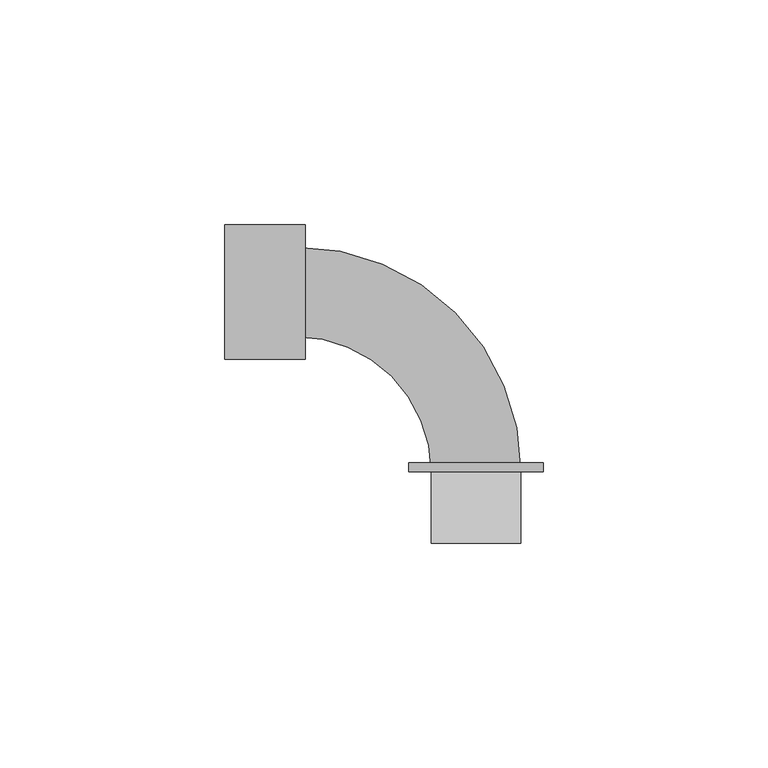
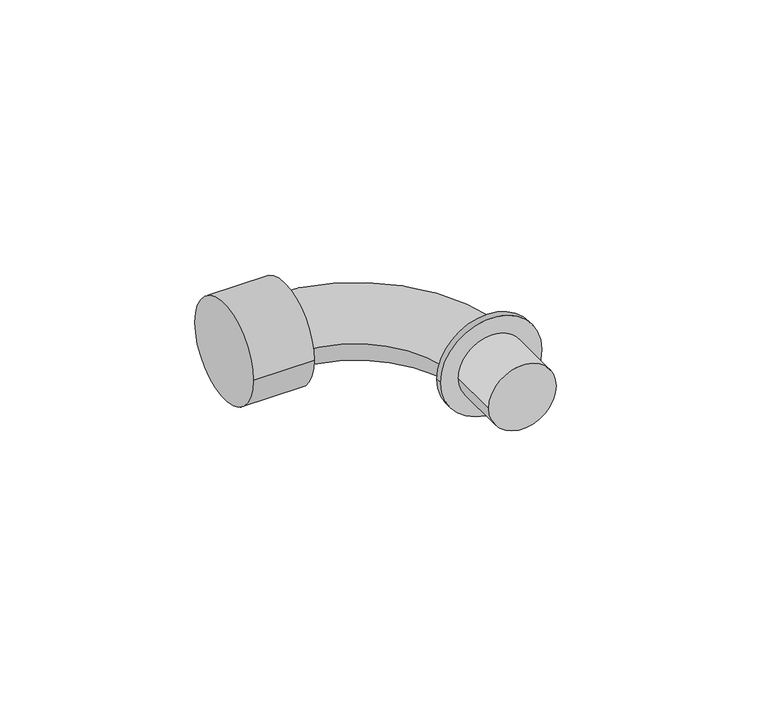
"""IFC4 building model written with IfcOpenShell, lengths in millimetres: pipe fitting geometry, 01051160 : Curva a 90º M/F."""

from ifc_helpers import new_model, si_unit, point, frame, origin, origin_2d, place, context, project, spatial, circle_curve, ellipse_curve, trimmed, segment, composite_curve, outline, extrude, source, transform, mapped, element, save
from ifc_brep_helpers import plane_surface, revolved_surface, advanced_brep


def pipe_fitting_c85212c9(model_context):
    return source(origin(), model_context, "Body", "SolidModel", [
        extrude(outline(composite_curve([segment(trimmed(circle_curve(origin_2d(), 15.0), [point((0.0, -15.0))], [point((0.0, 15.0))], False, "CARTESIAN"), True, "CONTINUOUS"), segment(trimmed(circle_curve(origin_2d(), 15.0), [point((0.0, 15.0))], [point((0.0, -15.0))], False, "CARTESIAN"), True, "CONTINUOUS")], self_intersect=False)), frame((0.0, -40.0, 0.0), z_axis=(0.0, 1.0, 0.0), x_axis=(0.0, 0.0, 1.0)), (0.0, 0.0, 1.0), 2.0),
        extrude(outline(composite_curve([segment(trimmed(circle_curve(origin_2d(), 15.0), [point((15.0, 0.0))], [point((-15.0, 0.0))], False, "CARTESIAN"), True, "CONTINUOUS"), segment(trimmed(circle_curve(origin_2d(), 15.0), [point((-15.0, 0.0))], [point((15.0, 0.0))], False, "CARTESIAN"), True, "CONTINUOUS")], self_intersect=False)), frame((-56.0, 0.0, 0.0), z_axis=(1.0, 0.0, 0.0), x_axis=(0.0, 1.0, 0.0)), (0.0, 0.0, 1.0), 18.0),
        extrude(outline(composite_curve([segment(trimmed(circle_curve(origin_2d(), 10.0), [point((0.0, -10.0))], [point((0.0, 10.0))], False, "CARTESIAN"), True, "CONTINUOUS"), segment(trimmed(circle_curve(origin_2d(), 10.0), [point((0.0, 10.0))], [point((0.0, -10.0))], False, "CARTESIAN"), True, "CONTINUOUS")], self_intersect=False)), frame((0.0, -56.0, 0.0), z_axis=(0.0, 1.0, 0.0), x_axis=(0.0, 0.0, 1.0)), (0.0, 0.0, 1.0), 16.0),
        advanced_brep(
        [(-10.0, -40.0, 0.0), (10.0, -40.0, 0.0), (-40.0, -10.0, 0.0), (-40.0, 10.0, 0.0)],
        [
            (0, 1, circle_curve(frame((0.0, -40.0, 0.0), z_axis=(0.0, -1.0, 0.0), x_axis=(1.0, 0.0, 0.0)), 10.0)),
            (1, 0, circle_curve(frame((0.0, -40.0, 0.0), z_axis=(0.0, -1.0, 0.0), x_axis=(1.0, 0.0, 0.0)), 10.0)),
            (2, 3, circle_curve(frame((-40.0, 0.0, 0.0), z_axis=(-1.0, 0.0, 0.0), x_axis=(0.0, 1.0, 0.0)), 10.0)),
            (3, 2, circle_curve(frame((-40.0, 0.0, 0.0), z_axis=(-1.0, 0.0, 0.0), x_axis=(0.0, 1.0, 0.0)), 10.0)),
            (2, 0, circle_curve(frame((-40.0, -40.0, 0.0), z_axis=(0.0, 0.0, -1.0), x_axis=(1.0, 0.0, 0.0)), 30.0)),
            (1, 3, circle_curve(frame((-40.0, -40.0, 0.0), z_axis=(0.0, 0.0, 1.0), x_axis=(1.0, 0.0, 0.0)), 50.0)),
        ],
        [
            plane_surface(frame((0.0, -40.0, 0.0), z_axis=(0.0, -1.0, 0.0), x_axis=(0.0, 0.0, 1.0))),
            plane_surface(frame((-40.0, 0.0, 0.0), z_axis=(-1.0, 0.0, 0.0), x_axis=(0.0, 0.0, 1.0))),
            revolved_surface(trimmed(ellipse_curve(frame((0.0, -40.0, 0.0), z_axis=(0.0, 1.0, 0.0), x_axis=(1.0, 0.0, 0.0)), 10.0, 10.0), [point((-10.0, -40.0, 0.0))], [point((10.0, -40.0, 0.0))], True, "CARTESIAN"), (-40.0, -40.0, 0.0), (0.0, 0.0, -1.0)),
            revolved_surface(trimmed(ellipse_curve(frame((0.0, -40.0, 0.0), z_axis=(0.0, 1.0, 0.0), x_axis=(1.0, 0.0, 0.0)), 10.0, 10.0), [point((10.0, -40.0, 0.0))], [point((-10.0, -40.0, 0.0))], True, "CARTESIAN"), (-40.0, -40.0, 0.0), (0.0, 0.0, -1.0)),
        ],
        [
            (0, [[1, 2]]),
            (1, [[3, 4]]),
            (2, [[-3, 5, -2, 6]]),
            (3, [[-4, -6, -1, -5]]),
        ],
    ),
    ])


if __name__ == "__main__":
    model = new_model("IFC4")
    model_context = context("Model", 3, world=origin())
    ifc_project = project(units=[si_unit("LENGTHUNIT", "METRE", prefix="MILLI")], contexts=[model_context])
    site = spatial("IfcSite", under=ifc_project)
    building = spatial("IfcBuilding", under=site)
    placement = place(None, origin())
    pipe_fitting_shape = pipe_fitting_c85212c9(model_context)
    element("IfcPipeFitting", 1, ObjectType="01051160 : Curva a 90º M/F", at=placement, inside=building, context=model_context, shape_type="MappedRepresentation", body=[
        mapped(pipe_fitting_shape, transform((0.0, 0.0, 0.0), x_axis=(1.0, 0.0, 0.0), y_axis=(0.0, 1.0, 0.0), z_axis=(0.0, 0.0, 1.0))),
    ])
    save(model, "model.ifc")
